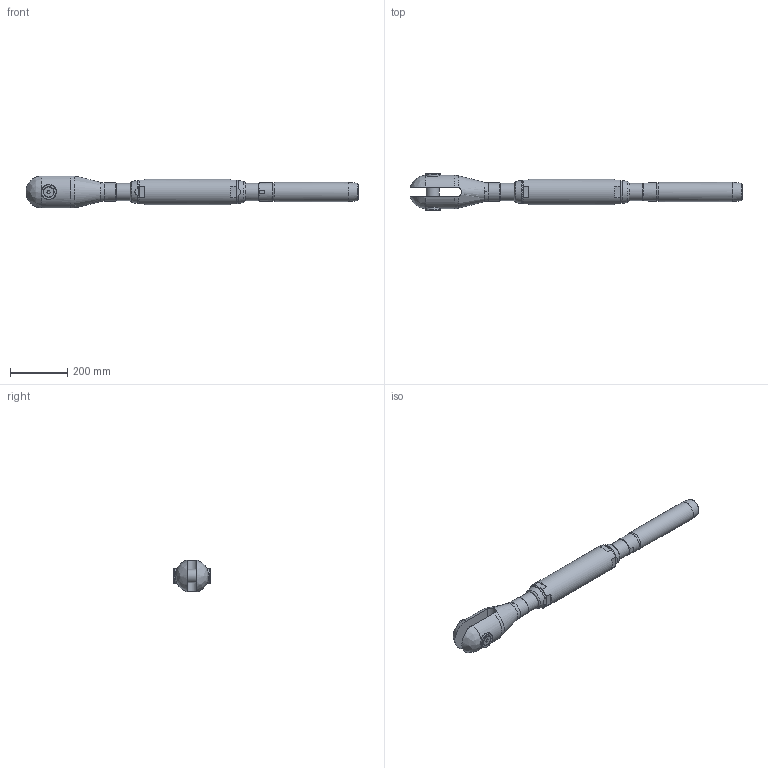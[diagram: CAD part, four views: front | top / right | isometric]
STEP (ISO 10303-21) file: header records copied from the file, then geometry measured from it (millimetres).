
FILE_DESCRIPTION(/* description */ (''),/* implementation_level */ '2;1');
FILE_NAME(/* name */ 'TBC 32_S355',/* time_stamp */ '2023-05-23T18:17:43+02:00',/* author */ (''),/* organization */ (''),/* preprocessor_version */ 'ST-DEVELOPER v16.5',/* originating_system */ 'Rhino 7.22',/* authorisation */ '');
FILE_SCHEMA (('CONFIG_CONTROL_DESIGN'));
Length unit declared in the file: millimetre
Products named in the file (1): Document
Bounding box: 1156.38 x 125.6 x 110.91 mm (x, y, z)
Volume: 5391981.6 mm3; surface area: 526956.7 mm2
Topology: 10 solids, 10 shells, 140 faces, 383 edges, 265 vertices
Faces by surface type: plane 65, bspline 40, cylinder 35
Full cylindrical faces by diameter (mm): 17.294 x2, 20 x2, 21 x2, 35.4 x2, 46 x1, 48 x2, 52 x2, 56.752 x4, 60 x2, 63.5 x2, 64 x1, 66.8 x1, 90 x1
Entity records: 5947 total; most frequent: CARTESIAN_POINT 3518, ORIENTED_EDGE 758, EDGE_CURVE 379, VERTEX_POINT 265, EDGE_LOOP 160, B_SPLINE_CURVE_WITH_KNOTS 157, ADVANCED_FACE 140, FACE_OUTER_BOUND 140
